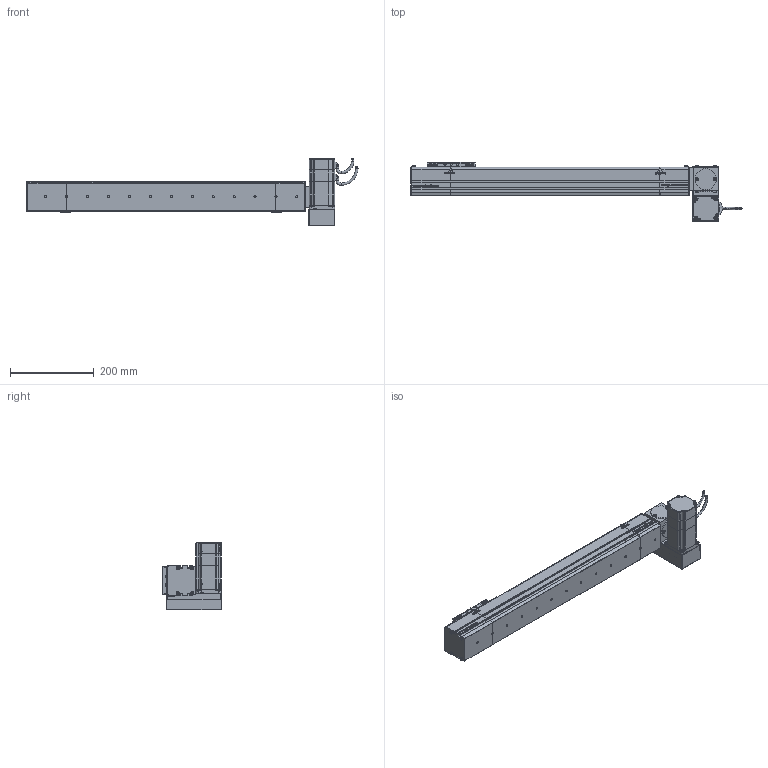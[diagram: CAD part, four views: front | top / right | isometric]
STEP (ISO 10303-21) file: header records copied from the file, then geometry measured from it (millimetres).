
FILE_DESCRIPTION (( 'STEP AP214' ), '1' );
FILE_NAME ('S07 CBN RU S500.STEP', '2010-06-29T09:32:57', ( 'Conseil Régional Haute-Normandie' ), ( 'Conseil Régional Haute-Normandie' ), 'SwSTEP 2.0', 'SolidWorks 2010', '' );
FILE_SCHEMA (( 'AUTOMOTIVE_DESIGN' ));
Length unit declared in the file: millimetre
Products named in the file (31): Corp S07 S500_Default; vis M5 L8_Default; support chariot_Default; plaque de serrage Tail_Default; Plaque de bout Tail_Default; Couvercle Tail_Default; chariot_Default; Chariot S07_Default; vis M5 L15_Default; Corp Tail_Default; Tail S07 Tail_Default; Couvercle S07 S500_Default; Corp RU_Default; Head RU_Default; S07 CBN RU S500; plaque de serrage RU_Default; Plaque de bout RU_Default; Couvercle RU_Default; Cache Support Moteur RU_Default; Support Moteur RU_Default; Rondelle de Serrage RU_Default; P2 90A_Default; P1_Default; 60BLDC90A-640_Default; Axe 60BLDC_Default; P4_Default; P3 90A_Default; VisM3_Default; Conecteur2 60BLDC_Default; Conecteur 60BLDC_Default
Assembly tree (71 placements, depth 4):
  S07 CBN RU S500
    Chariot S07_Default
      vis M5 L8_Default  x8
      support chariot_Default
      chariot_Default
    Corp S07 S500_Default
      Couvercle S07 S500_Default
      Corp S07 S500_Default
    Tail S07 Tail_Default
      Couvercle Tail_Default
      vis M5 L15_Default  x6
      Plaque de bout Tail_Default
      plaque de serrage Tail_Default
      Corp Tail_Default
    Head RU_Default
      Support Moteur RU_Default
      vis M5 L15_Default  x16
      plaque de serrage RU_Default
      60BLDC90A-640_Default
        VisM3_Default  x12
        P4_Default
        Conecteur 60BLDC_Default
        Conecteur2 60BLDC_Default
        P3 90A_Default
        P2 90A_Default
        Axe 60BLDC_Default
        P1_Default
      Rondelle de Serrage RU_Default  x3
      Cache Support Moteur RU_Default
      Plaque de bout RU_Default
      Corp RU_Default
      Couvercle RU_Default
Bounding box: 793.2 x 142 x 162 mm (x, y, z)
Volume: 3799441.3 mm3; surface area: 549994.8 mm2
Topology: 108 solids, 108 shells, 3880 faces, 9566 edges, 6156 vertices
Faces by surface type: plane 2246, bspline 756, cylinder 667, torus 112, cone 95, sphere 4
Entity records: 153033 total; most frequent: CARTESIAN_POINT 79539, ORIENTED_EDGE 14652, DIRECTION 10899, EDGE_CURVE 7326, VERTEX_POINT 4841, LINE 4765, VECTOR 4765, EDGE_LOOP 3133
